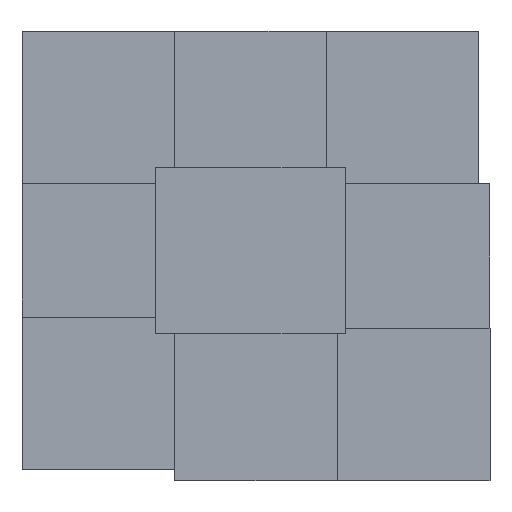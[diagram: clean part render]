
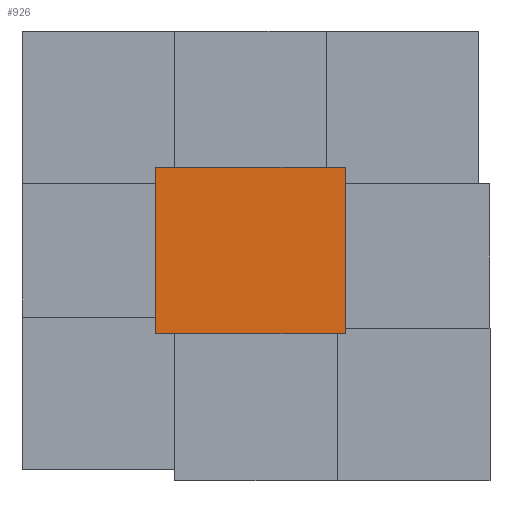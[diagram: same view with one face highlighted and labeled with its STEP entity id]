
A CAD part, left-side view. The second image highlights one B-rep face of the part: STEP entity #926.
In plain terms, the highlighted planar face has unit normal (-1, 0, 0).
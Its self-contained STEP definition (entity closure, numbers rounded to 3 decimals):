
#808=CARTESIAN_POINT('Line Origine',(0.,0.,54.5)) ;
#812=CARTESIAN_POINT('Vertex',(0.,0.,0.)) ;
#814=CARTESIAN_POINT('Vertex',(0.,0.,109.)) ;
#883=CARTESIAN_POINT('Vertex',(0.,124.,0.)) ;
#886=CARTESIAN_POINT('Line Origine',(0.,124.,54.5)) ;
#890=CARTESIAN_POINT('Vertex',(0.,124.,109.)) ;
#905=CARTESIAN_POINT('Axis2P3D Location',(0.,124.,0.)) ;
#910=CARTESIAN_POINT('Line Origine',(0.,62.,0.)) ;
#915=CARTESIAN_POINT('Line Origine',(0.,62.,109.)) ;
#809=DIRECTION('Vector Direction',(0.,0.,1.)) ;
#887=DIRECTION('Vector Direction',(0.,0.,1.)) ;
#906=DIRECTION('Axis2P3D Direction',(-1.,0.,0.)) ;
#907=DIRECTION('Axis2P3D XDirection',(0.,-1.,0.)) ;
#911=DIRECTION('Vector Direction',(0.,-1.,0.)) ;
#916=DIRECTION('Vector Direction',(0.,-1.,0.)) ;
#908=AXIS2_PLACEMENT_3D('Plane Axis2P3D',#905,#906,#907) ;
#921=ORIENTED_EDGE('',*,*,#892,.F.) ;
#922=ORIENTED_EDGE('',*,*,#914,.T.) ;
#923=ORIENTED_EDGE('',*,*,#816,.T.) ;
#924=ORIENTED_EDGE('',*,*,#919,.F.) ;
#810=VECTOR('Line Direction',#809,1.) ;
#888=VECTOR('Line Direction',#887,1.) ;
#912=VECTOR('Line Direction',#911,1.) ;
#917=VECTOR('Line Direction',#916,1.) ;
#926=ADVANCED_FACE('Body.2-molde-superior',(#925),#909,.T.) ;
#816=EDGE_CURVE('',#813,#815,#811,.T.) ;
#892=EDGE_CURVE('',#884,#891,#889,.T.) ;
#914=EDGE_CURVE('',#884,#813,#913,.T.) ;
#919=EDGE_CURVE('',#891,#815,#918,.T.) ;
#920=EDGE_LOOP('',(#921,#922,#923,#924)) ;
#925=FACE_OUTER_BOUND('',#920,.T.) ;
#811=LINE('Line',#808,#810) ;
#889=LINE('Line',#886,#888) ;
#913=LINE('Line',#910,#912) ;
#918=LINE('Line',#915,#917) ;
#909=PLANE('',#908) ;
#813=VERTEX_POINT('',#812) ;
#815=VERTEX_POINT('',#814) ;
#884=VERTEX_POINT('',#883) ;
#891=VERTEX_POINT('',#890) ;
